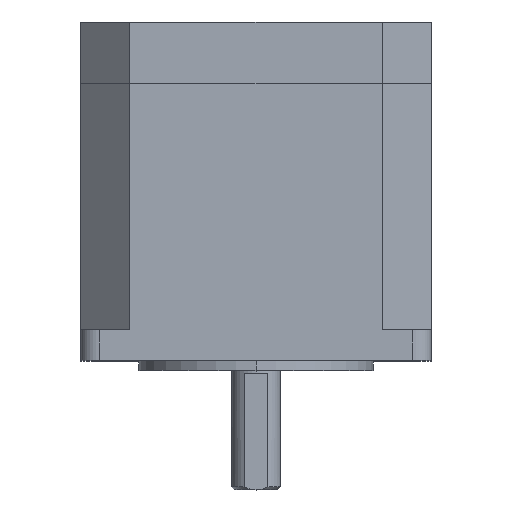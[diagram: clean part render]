
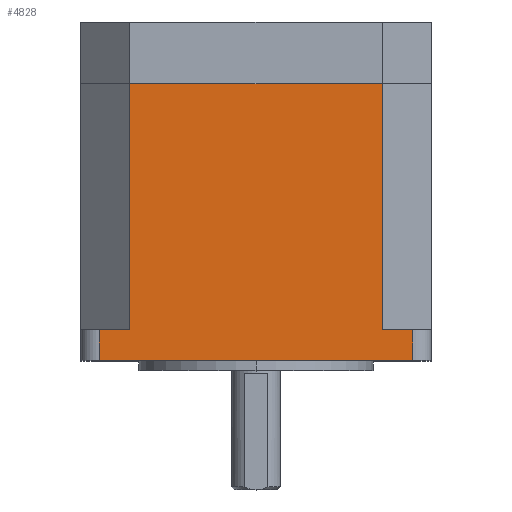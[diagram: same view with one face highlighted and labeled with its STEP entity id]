
A CAD part, top view. The second image highlights one B-rep face of the part: STEP entity #4828.
In plain terms, the highlighted planar face has unit normal (0, 0, 1).
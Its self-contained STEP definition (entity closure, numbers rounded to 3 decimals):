
#43 = EDGE_CURVE ( 'NONE', #1477, #2570, #5224, .T. ) ;
#53 = ORIENTED_EDGE ( 'NONE', *, *, #4134, .T. ) ;
#90 = DIRECTION ( 'NONE',  ( 0., 0., -1. ) ) ;
#123 = DIRECTION ( 'NONE',  ( -1., 0., 0. ) ) ;
#172 = ORIENTED_EDGE ( 'NONE', *, *, #3197, .F. ) ;
#225 = DIRECTION ( 'NONE',  ( -1., 0., 0. ) ) ;
#242 = VECTOR ( 'NONE', #5223, 1000. ) ;
#269 = DIRECTION ( 'NONE',  ( 0., -1., 0. ) ) ;
#328 = ORIENTED_EDGE ( 'NONE', *, *, #43, .T. ) ;
#433 = AXIS2_PLACEMENT_3D ( 'NONE', #5570, #90, #123 ) ;
#627 = ORIENTED_EDGE ( 'NONE', *, *, #4324, .F. ) ;
#642 = LINE ( 'NONE', #3715, #4617 ) ;
#931 = CARTESIAN_POINT ( 'NONE',  ( -29.553, 29.009, 36.465 ) ) ;
#1030 = ORIENTED_EDGE ( 'NONE', *, *, #4259, .F. ) ;
#1092 = VERTEX_POINT ( 'NONE', #1143 ) ;
#1104 = DIRECTION ( 'NONE',  ( 1., 0., 0. ) ) ;
#1143 = CARTESIAN_POINT ( 'NONE',  ( 16.447, -15.991, 36.465 ) ) ;
#1228 = VERTEX_POINT ( 'NONE', #1288 ) ;
#1239 = EDGE_CURVE ( 'NONE', #1228, #3998, #3601, .T. ) ;
#1261 = VERTEX_POINT ( 'NONE', #1407 ) ;
#1288 = CARTESIAN_POINT ( 'NONE',  ( 11.447, -10.991, 36.465 ) ) ;
#1407 = CARTESIAN_POINT ( 'NONE',  ( 16.447, -10.991, 36.465 ) ) ;
#1477 = VERTEX_POINT ( 'NONE', #4248 ) ;
#1562 = LINE ( 'NONE', #5676, #5717 ) ;
#1575 = ORIENTED_EDGE ( 'NONE', *, *, #2184, .T. ) ;
#1776 = CARTESIAN_POINT ( 'NONE',  ( 11.447, -27.305, 36.465 ) ) ;
#1868 = LINE ( 'NONE', #3660, #5561 ) ;
#2145 = CARTESIAN_POINT ( 'NONE',  ( -34.553, 70.425, 36.465 ) ) ;
#2184 = EDGE_CURVE ( 'NONE', #4784, #1092, #1562, .T. ) ;
#2394 = PLANE ( 'NONE',  #433 ) ;
#2563 = CARTESIAN_POINT ( 'NONE',  ( 11.447, -10.991, 36.465 ) ) ;
#2570 = VERTEX_POINT ( 'NONE', #5171 ) ;
#2927 = CARTESIAN_POINT ( 'NONE',  ( 16.447, 70.425, 36.465 ) ) ;
#2949 = LINE ( 'NONE', #2563, #4323 ) ;
#2999 = LINE ( 'NONE', #2145, #242 ) ;
#3059 = VECTOR ( 'NONE', #3570, 1000. ) ;
#3197 = EDGE_CURVE ( 'NONE', #1261, #1092, #5671, .T. ) ;
#3285 = DIRECTION ( 'NONE',  ( 0., 1., 0. ) ) ;
#3439 = DIRECTION ( 'NONE',  ( -1., 0., 0. ) ) ;
#3570 = DIRECTION ( 'NONE',  ( 0., 1., 0. ) ) ;
#3601 = LINE ( 'NONE', #1776, #3059 ) ;
#3645 = VERTEX_POINT ( 'NONE', #931 ) ;
#3660 = CARTESIAN_POINT ( 'NONE',  ( -37.553, 29.009, 36.465 ) ) ;
#3694 = CARTESIAN_POINT ( 'NONE',  ( 11.447, 29.009, 36.465 ) ) ;
#3709 = ORIENTED_EDGE ( 'NONE', *, *, #1239, .T. ) ;
#3715 = CARTESIAN_POINT ( 'NONE',  ( -29.553, -27.305, 36.465 ) ) ;
#3776 = EDGE_CURVE ( 'NONE', #1261, #1228, #2949, .T. ) ;
#3838 = VECTOR ( 'NONE', #269, 1000. ) ;
#3917 = ORIENTED_EDGE ( 'NONE', *, *, #3776, .T. ) ;
#3998 = VERTEX_POINT ( 'NONE', #3694 ) ;
#4134 = EDGE_CURVE ( 'NONE', #2570, #4784, #2999, .T. ) ;
#4248 = CARTESIAN_POINT ( 'NONE',  ( -29.553, -10.991, 36.465 ) ) ;
#4259 = EDGE_CURVE ( 'NONE', #3645, #3998, #1868, .T. ) ;
#4294 = VECTOR ( 'NONE', #225, 1000. ) ;
#4323 = VECTOR ( 'NONE', #3439, 1000. ) ;
#4324 = EDGE_CURVE ( 'NONE', #1477, #3645, #642, .T. ) ;
#4332 = CARTESIAN_POINT ( 'NONE',  ( -37.553, -10.991, 36.465 ) ) ;
#4616 = EDGE_LOOP ( 'NONE', ( #627, #328, #53, #1575, #172, #3917, #3709, #1030 ) ) ;
#4617 = VECTOR ( 'NONE', #3285, 1000. ) ;
#4672 = FACE_OUTER_BOUND ( 'NONE', #4616, .T. ) ;
#4784 = VERTEX_POINT ( 'NONE', #5119 ) ;
#4828 = ADVANCED_FACE ( 'NONE', ( #4672 ), #2394, .F. ) ;
#5031 = DIRECTION ( 'NONE',  ( 1., 0., 0. ) ) ;
#5119 = CARTESIAN_POINT ( 'NONE',  ( -34.553, -15.991, 36.465 ) ) ;
#5171 = CARTESIAN_POINT ( 'NONE',  ( -34.553, -10.991, 36.465 ) ) ;
#5223 = DIRECTION ( 'NONE',  ( 0., -1., 0. ) ) ;
#5224 = LINE ( 'NONE', #4332, #4294 ) ;
#5561 = VECTOR ( 'NONE', #5031, 1000. ) ;
#5570 = CARTESIAN_POINT ( 'NONE',  ( -37.553, 29.009, 36.465 ) ) ;
#5671 = LINE ( 'NONE', #2927, #3838 ) ;
#5676 = CARTESIAN_POINT ( 'NONE',  ( -37.553, -15.991, 36.465 ) ) ;
#5717 = VECTOR ( 'NONE', #1104, 1000. ) ;
